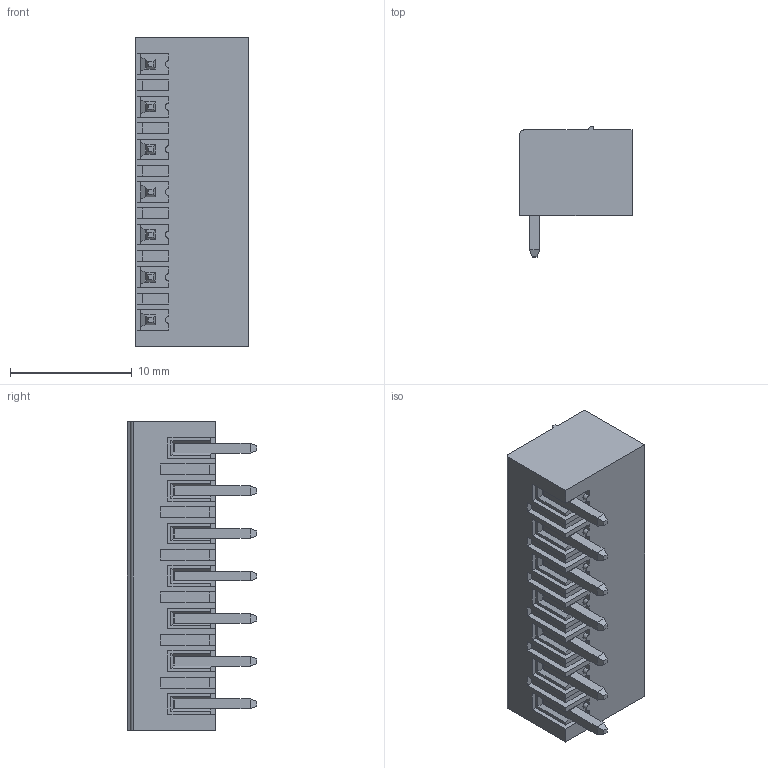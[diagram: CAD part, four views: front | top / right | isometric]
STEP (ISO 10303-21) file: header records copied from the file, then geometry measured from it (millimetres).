
FILE_DESCRIPTION (( 'STEP AP203' ), '1' );
FILE_NAME ('110-ME-111-07.STEP', '2021-03-17T16:05:50', ( '' ), ( '' ), 'SwSTEP 2.0', 'SolidWorks 2016', '' );
FILE_SCHEMA (( 'CONFIG_CONTROL_DESIGN' ));
Length unit declared in the file: millimetre
Products named in the file (1): 110-ME-111-07
Bounding box: 9.2 x 10.65 x 25.3 mm (x, y, z)
Volume: 871.2 mm3; surface area: 2216.2 mm2
Topology: 1 solids, 1 shells, 425 faces, 1122 edges, 720 vertices
Faces by surface type: plane 382, cylinder 29, bspline 14
Entity records: 13061 total; most frequent: CARTESIAN_POINT 2520, ORIENTED_EDGE 2244, DIRECTION 2018, EDGE_CURVE 1122, LINE 1022, VECTOR 1022, VERTEX_POINT 720, AXIS2_PLACEMENT_3D 498
